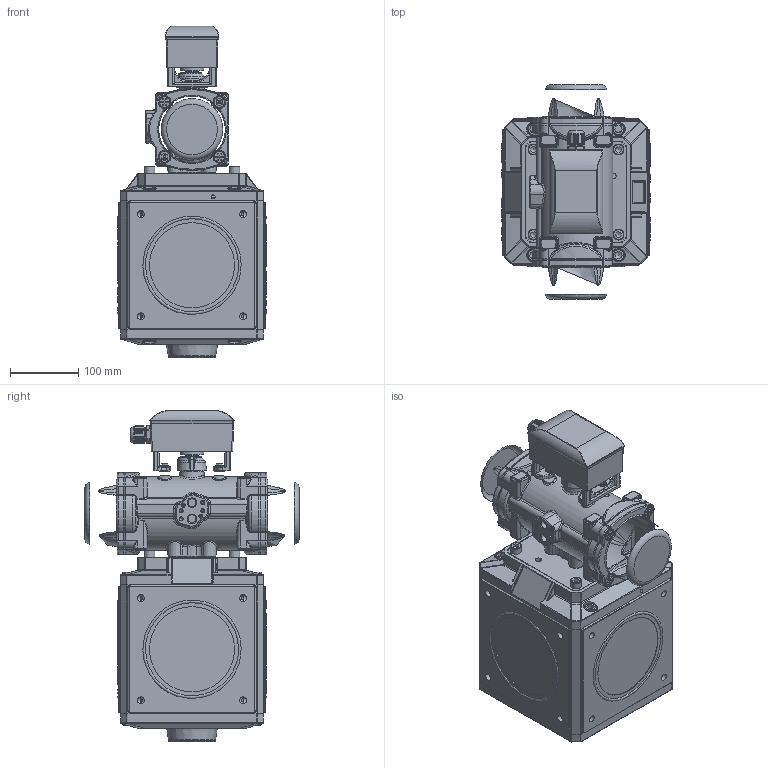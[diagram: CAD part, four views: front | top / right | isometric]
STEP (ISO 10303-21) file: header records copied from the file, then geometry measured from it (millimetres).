
FILE_DESCRIPTION(/* description */ (''),/* implementation_level */ '2;1');
FILE_NAME(/* name */ 'E:\WorkSpace\Designs\1700\1700063.stp',/* time_stamp */ '2022-05-25T11:11:31+02:00',/* author */ ('JJ'),/* organization */ (''),/* preprocessor_version */ 'ST-DEVELOPER v18.1',/* originating_system */ 'Autodesk Inventor 2022',/* authorisation */ '');
FILE_SCHEMA (('AUTOMOTIVE_DESIGN { 1 0 10303 214 3 1 1 }'));
Products named in the file (1): 1700063
Bounding box: 218.28 x 315 x 486.8 mm (x, y, z)
Volume: 13874813.5 mm3; surface area: 602608.9 mm2
Topology: 9 solids, 9 shells, 2890 faces, 7039 edges, 4180 vertices
Faces by surface type: cylinder 858, plane 791, bspline 502, torus 417, cone 281, sphere 41
Full cylindrical faces by diameter (mm): 4 x2, 4.3 x4, 6 x5, 8.5 x2, 10.106 x16, 13.3 x4, 14 x2, 14.9 x1, 16 x12, 18 x8, 19 x1, 20 x9, 21.8 x1, 23 x1, 24 x1, 25.2 x1, 26.4 x1, 29 x1, 31.5 x1, 35 x1, 68 x1, 74 x1, 125 x4
Entity records: 152984 total; most frequent: CARTESIAN_POINT 85582, ORIENTED_EDGE 13934, DIRECTION 13214, EDGE_CURVE 6967, AXIS2_PLACEMENT_3D 5249, VERTEX_POINT 4180, EDGE_LOOP 3025, STYLED_ITEM 2891
